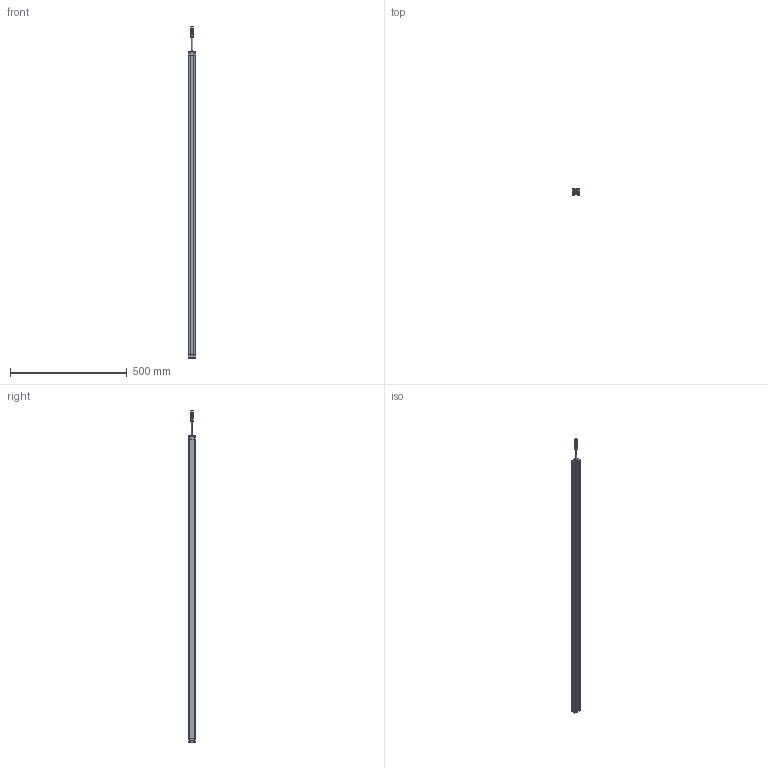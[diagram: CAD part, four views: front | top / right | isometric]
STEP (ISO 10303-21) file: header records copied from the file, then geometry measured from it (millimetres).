
FILE_DESCRIPTION((''),'2;1');
FILE_NAME('SMT1-CGQ_ASM','2025-08-08T08:42:31',('Administrator'),(''),'CREO PARAMETRIC BY PTC INC, 2016510','CREO PARAMETRIC BY PTC INC, 2016510','');
FILE_SCHEMA(('CONFIG_CONTROL_DESIGN'));
Length unit declared in the file: millimetre
Products named in the file (7): SMT1-XINGCAI-V1; SMT1-SDG-V1; SMT1-XDG-V1; M12-CHATOU; ST3X18; CT4-LVGUANGBAN; SMT1-CGQ_ASM
Assembly tree (13 placements, depth 2):
  SMT1-CGQ_ASM
    SMT1-XINGCAI-V1
    SMT1-SDG-V1
    SMT1-XDG-V1
    M12-CHATOU
    ST3X18  x8
    CT4-LVGUANGBAN
Bounding box: 33 x 28.02 x 1419.5 mm (x, y, z)
Volume: 1013591 mm3; surface area: 325158.2 mm2
Topology: 13 solids, 13 shells, 712 faces, 1868 edges, 1200 vertices
Faces by surface type: plane 382, cylinder 184, extrusion 86, sphere 32, cone 20, bspline 8
Entity records: 18128 total; most frequent: CARTESIAN_POINT 4347, ORIENTED_EDGE 2916, DIRECTION 2580, EDGE_CURVE 1458, VECTOR 1036, VERTEX_POINT 955, LINE 950, AXIS2_PLACEMENT_3D 772
